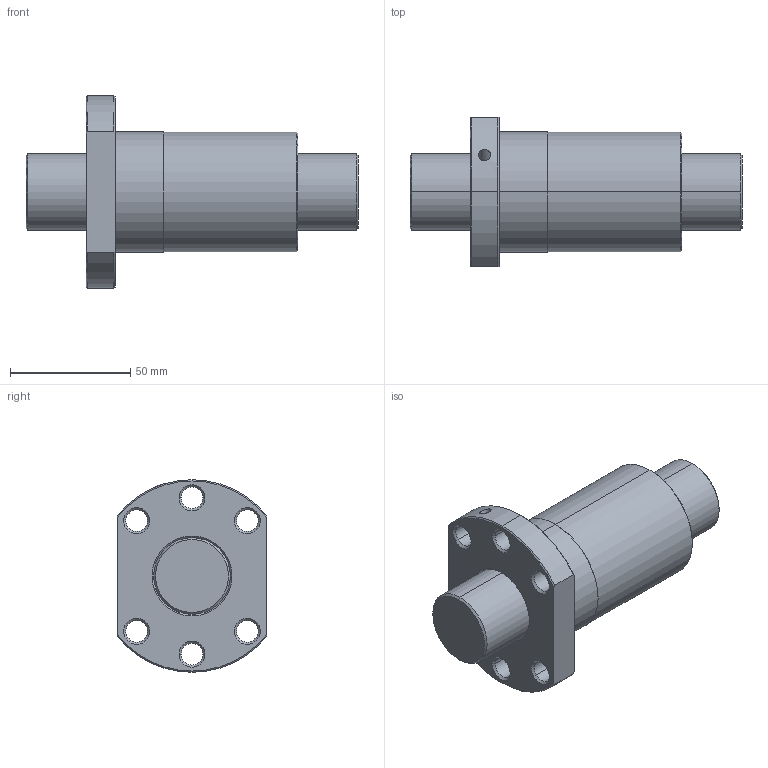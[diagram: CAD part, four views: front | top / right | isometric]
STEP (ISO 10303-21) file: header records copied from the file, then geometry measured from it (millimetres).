
FILE_DESCRIPTION(('no description'),'unknown implementation level');
FILE_NAME('R32_32K2_FSCDIN_138_138_0_052_FILE_1.stp',' ',('HIWIN GmbH'),('CADClick - KiM GmbH - www.kimweb.de'),'unknown preprocess','ACIS','unknown authorization');
FILE_SCHEMA(('automotive_design'));
Length unit declared in the file: millimetre
Products named in the file (2): R32-32K2-FSCDIN 138 138 0.052_FILE; R32-32K2-FSCDIN 138 138 0.052_FILE_1
Bounding box: 138 x 62 x 80 mm (x, y, z)
Volume: 235976.3 mm3; surface area: 47322 mm2
Topology: 2 solids, 2 shells, 78 faces, 176 edges, 103 vertices
Faces by surface type: cone 44, cylinder 26, plane 8
Entity records: 4297 total; most frequent: CARTESIAN_POINT 440, DIRECTION 416, STYLED_ITEM 357, PRESENTATION_STYLE_ASSIGNMENT 357, COLOUR_RGB 357, ORIENTED_EDGE 348, EDGE_CURVE 174, CURVE_STYLE 174
